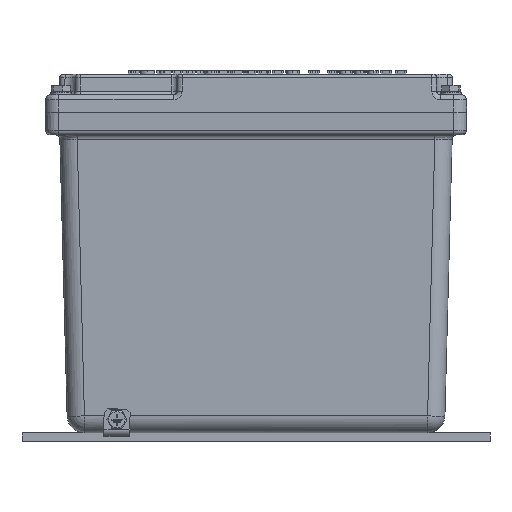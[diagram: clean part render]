
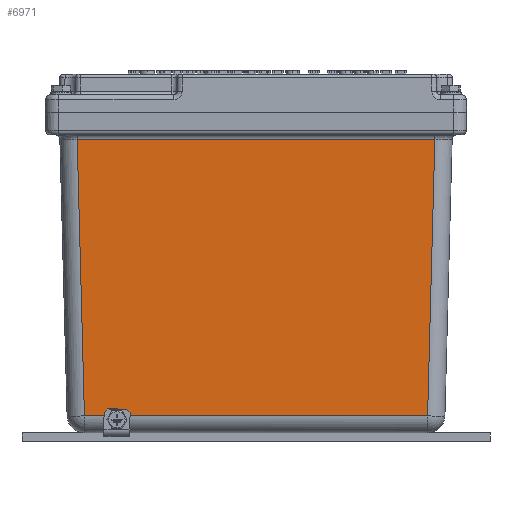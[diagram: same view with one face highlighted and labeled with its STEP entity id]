
A CAD part, left-side view. The second image highlights one B-rep face of the part: STEP entity #6971.
In plain terms, the highlighted planar face has unit normal (-1, 0, -0.026).
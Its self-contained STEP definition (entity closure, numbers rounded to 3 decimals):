
#5662=CARTESIAN_POINT('',(-159.501,80.209,-171.803));
#5663=VERTEX_POINT('',#5662);
#5664=CARTESIAN_POINT('',(-159.437,80.209,-174.261));
#5665=DIRECTION('',(1.,0.,0.026));
#5666=DIRECTION('',(-0.026,0.,1.));
#5667=AXIS2_PLACEMENT_3D('',#5664,#5665,#5666);
#5668=CIRCLE('',#5667,2.459);
#5669=EDGE_CURVE('',#5663,#5663,#5668,.T.);
#6334=CARTESIAN_POINT('',(-159.306,85.709,-179.259));
#6335=VERTEX_POINT('',#6334);
#6372=CARTESIAN_POINT('',(-159.489,85.709,-172.262));
#6373=VERTEX_POINT('',#6372);
#6374=CARTESIAN_POINT('',(-159.306,85.709,-179.259));
#6375=DIRECTION('',(-0.026,0.0,1.));
#6376=VECTOR('',#6375,7.);
#6377=LINE('',#6374,#6376);
#6378=EDGE_CURVE('',#6335,#6373,#6377,.T.);
#6414=CARTESIAN_POINT('',(-159.306,74.709,-179.259));
#6415=VERTEX_POINT('',#6414);
#6429=CARTESIAN_POINT('',(-159.306,74.709,-179.259));
#6430=DIRECTION('',(0.0,1.0,0.0));
#6431=VECTOR('',#6430,11.0);
#6432=LINE('',#6429,#6431);
#6433=EDGE_CURVE('',#6415,#6335,#6432,.T.);
#6586=CARTESIAN_POINT('',(-159.489,74.709,-172.262));
#6587=VERTEX_POINT('',#6586);
#6597=CARTESIAN_POINT('',(-159.489,74.709,-172.262));
#6598=DIRECTION('',(0.026,0.0,-1.));
#6599=VECTOR('',#6598,7.);
#6600=LINE('',#6597,#6599);
#6601=EDGE_CURVE('',#6587,#6415,#6600,.T.);
#6920=CARTESIAN_POINT('',(-163.738,-50.759,-10.0));
#6921=DIRECTION('',(-1.,0.,-0.026));
#6922=DIRECTION('',(0.0,1.0,0.0));
#6923=AXIS2_PLACEMENT_3D('',#6920,#6921,#6922);
#6924=PLANE('',#6923);
#6925=CARTESIAN_POINT('',(-159.489,98.993,-172.262));
#6926=VERTEX_POINT('',#6925);
#6927=CARTESIAN_POINT('',(-159.489,85.709,-172.262));
#6928=DIRECTION('',(0.0,1.0,0.0));
#6929=VECTOR('',#6928,13.284);
#6930=LINE('',#6927,#6929);
#6931=EDGE_CURVE('',#6373,#6926,#6930,.T.);
#6932=ORIENTED_EDGE('',*,*,#6931,.F.);
#6933=ORIENTED_EDGE('',*,*,#6378,.F.);
#6934=ORIENTED_EDGE('',*,*,#6433,.F.);
#6935=ORIENTED_EDGE('',*,*,#6601,.F.);
#6936=CARTESIAN_POINT('',(-159.489,-98.993,-172.262));
#6937=VERTEX_POINT('',#6936);
#6938=CARTESIAN_POINT('',(-159.489,-98.993,-172.262));
#6939=DIRECTION('',(0.0,1.0,0.0));
#6940=VECTOR('',#6939,173.701);
#6941=LINE('',#6938,#6940);
#6942=EDGE_CURVE('',#6937,#6587,#6941,.T.);
#6943=ORIENTED_EDGE('',*,*,#6942,.F.);
#6944=CARTESIAN_POINT('',(-163.662,-103.165,-12.921));
#6945=VERTEX_POINT('',#6944);
#6946=CARTESIAN_POINT('',(-163.662,-103.165,-12.921));
#6947=DIRECTION('',(0.026,0.026,-0.999));
#6948=VECTOR('',#6947,159.45);
#6949=LINE('',#6946,#6948);
#6950=EDGE_CURVE('',#6945,#6937,#6949,.T.);
#6951=ORIENTED_EDGE('',*,*,#6950,.F.);
#6952=CARTESIAN_POINT('',(-163.662,103.165,-12.921));
#6953=VERTEX_POINT('',#6952);
#6954=CARTESIAN_POINT('',(-163.662,103.165,-12.921));
#6955=DIRECTION('',(0.0,-1.0,0.0));
#6956=VECTOR('',#6955,206.33);
#6957=LINE('',#6954,#6956);
#6958=EDGE_CURVE('',#6953,#6945,#6957,.T.);
#6959=ORIENTED_EDGE('',*,*,#6958,.F.);
#6960=CARTESIAN_POINT('',(-159.489,98.993,-172.262));
#6961=DIRECTION('',(-0.026,0.026,0.999));
#6962=VECTOR('',#6961,159.45);
#6963=LINE('',#6960,#6962);
#6964=EDGE_CURVE('',#6926,#6953,#6963,.T.);
#6965=ORIENTED_EDGE('',*,*,#6964,.F.);
#6966=EDGE_LOOP('',(#6932,#6933,#6934,#6935,#6943,#6951,#6959,#6965));
#6967=FACE_OUTER_BOUND('',#6966,.T.);
#6968=ORIENTED_EDGE('',*,*,#5669,.T.);
#6969=EDGE_LOOP('',(#6968));
#6970=FACE_BOUND('',#6969,.T.);
#6971=ADVANCED_FACE('',(#6967,#6970),#6924,.T.);
